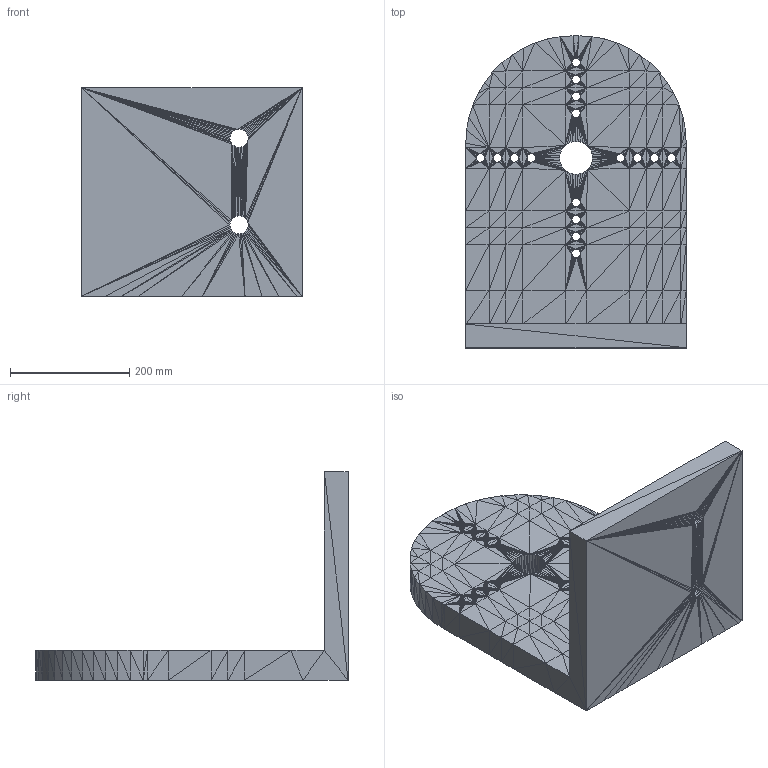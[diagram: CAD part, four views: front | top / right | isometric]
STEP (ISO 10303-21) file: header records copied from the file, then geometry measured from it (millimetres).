
FILE_DESCRIPTION(/* description */ (''),/* implementation_level */ '2;1');
FILE_NAME(/* name */ 'Wrist.step',/* time_stamp */ '2026-08-26T22:06:21+02:00',/* author */ (''),/* organization */ (''),/* preprocessor_version */ 'ST-DEVELOPER v20.1',/* originating_system */ 'Autodesk Translation Framework v15.8.0.0',/* authorisation */ '');
FILE_SCHEMA (('CONFIG_CONTROL_DESIGN','AUTOMOTIVE_DESIGN { 1 0 10303 214 3 1 1 }'));
Products named in the file (1): 2026-08-26-22-06-00-843
Bounding box: 370 x 524.3 x 350 mm (x, y, z)
Volume: 13134532.4 mm3; surface area: 726846.6 mm2
Topology: 1 solids, 1 shells, 3460 faces, 5190 edges, 1694 vertices
Faces by surface type: plane 3460
Entity records: 67439 total; most frequent: DIRECTION 12112, ORIENTED_EDGE 10380, CARTESIAN_POINT 10345, LINE 5190, VECTOR 5190, EDGE_CURVE 5190, AXIS2_PLACEMENT_3D 3461, FACE_OUTER_BOUND 3460
